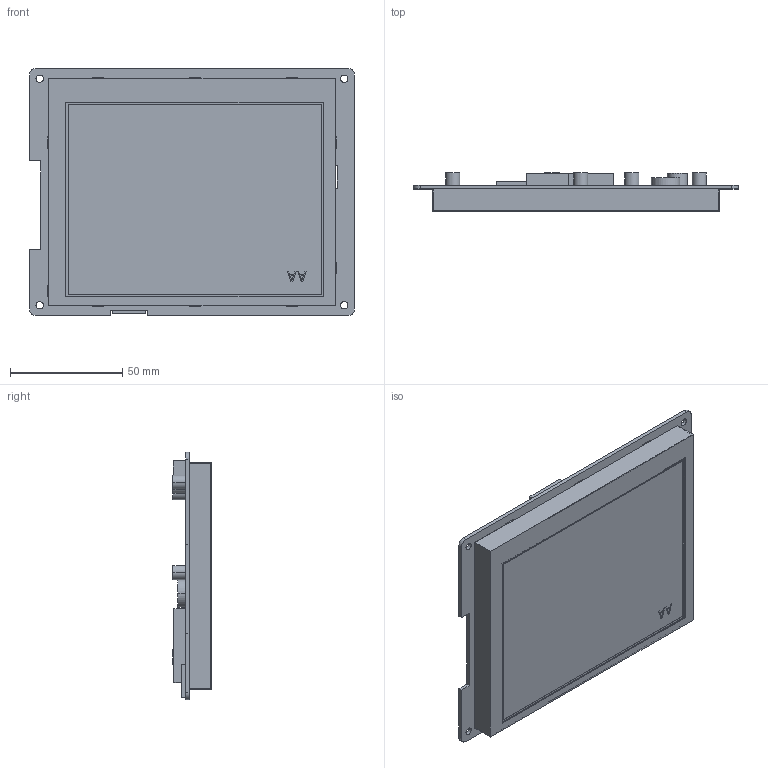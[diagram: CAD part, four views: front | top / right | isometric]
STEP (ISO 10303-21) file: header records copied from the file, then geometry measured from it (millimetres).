
FILE_DESCRIPTION((''),'2;1');
FILE_NAME('DMG64480T056-01WTR_ASM','2021-12-03T',('Administrator'),(''),'PRO/ENGINEER BY PARAMETRIC TECHNOLOGY CORPORATION, 2014320','PRO/ENGINEER BY PARAMETRIC TECHNOLOGY CORPORATION, 2014320','');
FILE_SCHEMA(('CONFIG_CONTROL_DESIGN','SHAPE_APPEARANCE_LAYERS_GROUPS'));
Length unit declared in the file: millimetre
Products named in the file (4): TK056004; AT056TN52; PCB1; DMG64480T056-01WTR_ASM
Assembly tree (3 placements, depth 2):
  DMG64480T056-01WTR_ASM
    TK056004
    AT056TN52
    PCB1
Bounding box: 144.78 x 17.1 x 110.24 mm (x, y, z)
Volume: 106763 mm3; surface area: 77244.3 mm2
Topology: 3 solids, 3 shells, 168 faces, 436 edges, 290 vertices
Faces by surface type: plane 140, cylinder 28
Entity records: 5315 total; most frequent: CARTESIAN_POINT 901, ORIENTED_EDGE 872, DIRECTION 842, EDGE_CURVE 436, VECTOR 380, LINE 380, VERTEX_POINT 290, AXIS2_PLACEMENT_3D 231
